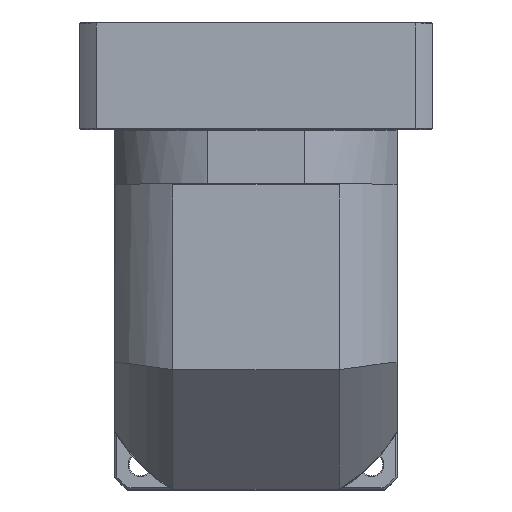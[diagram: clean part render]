
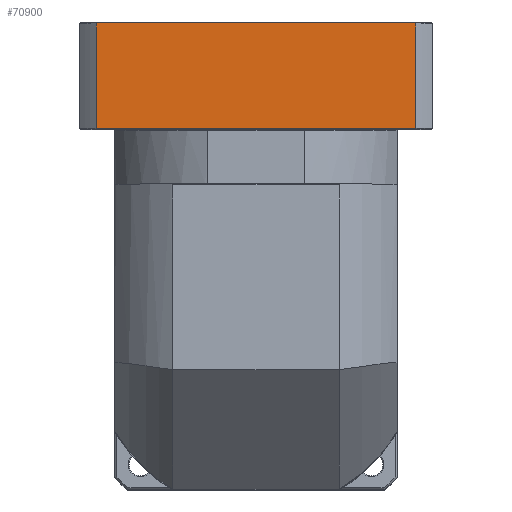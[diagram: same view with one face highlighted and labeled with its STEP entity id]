
A CAD part, top view. The second image highlights one B-rep face of the part: STEP entity #70900.
In plain terms, the highlighted planar face has unit normal (0, 0, 1).
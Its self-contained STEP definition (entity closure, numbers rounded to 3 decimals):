
#2001 = CARTESIAN_POINT ( 'NONE',  ( 3.887, 175.351, 63.011 ) ) ;
#6630 = ORIENTED_EDGE ( 'NONE', *, *, #133449, .F. ) ;
#7606 = CARTESIAN_POINT ( 'NONE',  ( 3.887, 228.851, 63.011 ) ) ;
#7697 = DIRECTION ( 'NONE',  ( 1., 0., 0. ) ) ;
#9419 = ORIENTED_EDGE ( 'NONE', *, *, #93695, .T. ) ;
#10154 = FACE_OUTER_BOUND ( 'NONE', #102495, .T. ) ;
#11026 = VECTOR ( 'NONE', #112919, 1000. ) ;
#16477 = EDGE_CURVE ( 'NONE', #23694, #65155, #114351, .T. ) ;
#23694 = VERTEX_POINT ( 'NONE', #44496 ) ;
#24479 = LINE ( 'NONE', #80149, #11026 ) ;
#32503 = LINE ( 'NONE', #2001, #71649 ) ;
#44496 = CARTESIAN_POINT ( 'NONE',  ( -165.605, 175.351, 63.011 ) ) ;
#49188 = ORIENTED_EDGE ( 'NONE', *, *, #79721, .F. ) ;
#54755 = VECTOR ( 'NONE', #87422, 1000. ) ;
#56778 = VERTEX_POINT ( 'NONE', #107868 ) ;
#59655 = AXIS2_PLACEMENT_3D ( 'NONE', #7606, #83533, #138620 ) ;
#63478 = VECTOR ( 'NONE', #7697, 1000. ) ;
#65155 = VERTEX_POINT ( 'NONE', #95705 ) ;
#70900 = ADVANCED_FACE ( 'NONE', ( #10154 ), #115902, .F. ) ;
#71649 = VECTOR ( 'NONE', #100293, 1000. ) ;
#72706 = CARTESIAN_POINT ( 'NONE',  ( 3.887, 228.351, 63.011 ) ) ;
#79721 = EDGE_CURVE ( 'NONE', #131991, #56778, #24479, .T. ) ;
#80149 = CARTESIAN_POINT ( 'NONE',  ( -4.62, -167.955, 63.011 ) ) ;
#83533 = DIRECTION ( 'NONE',  ( 0., 0., -1. ) ) ;
#86451 = CARTESIAN_POINT ( 'NONE',  ( -165.605, 228.851, 63.011 ) ) ;
#87422 = DIRECTION ( 'NONE',  ( 0., 1., 0. ) ) ;
#89337 = CARTESIAN_POINT ( 'NONE',  ( -4.62, 228.351, 63.011 ) ) ;
#93695 = EDGE_CURVE ( 'NONE', #23694, #56778, #32503, .T. ) ;
#95705 = CARTESIAN_POINT ( 'NONE',  ( -165.605, 228.351, 63.011 ) ) ;
#100293 = DIRECTION ( 'NONE',  ( 1., 0., 0. ) ) ;
#102495 = EDGE_LOOP ( 'NONE', ( #112196, #9419, #49188, #6630 ) ) ;
#107868 = CARTESIAN_POINT ( 'NONE',  ( -4.62, 175.351, 63.011 ) ) ;
#112196 = ORIENTED_EDGE ( 'NONE', *, *, #16477, .F. ) ;
#112919 = DIRECTION ( 'NONE',  ( 0., -1., 0. ) ) ;
#114351 = LINE ( 'NONE', #86451, #54755 ) ;
#115902 = PLANE ( 'NONE',  #59655 ) ;
#123036 = LINE ( 'NONE', #72706, #63478 ) ;
#131991 = VERTEX_POINT ( 'NONE', #89337 ) ;
#133449 = EDGE_CURVE ( 'NONE', #65155, #131991, #123036, .T. ) ;
#138620 = DIRECTION ( 'NONE',  ( 0., -1., 0. ) ) ;
